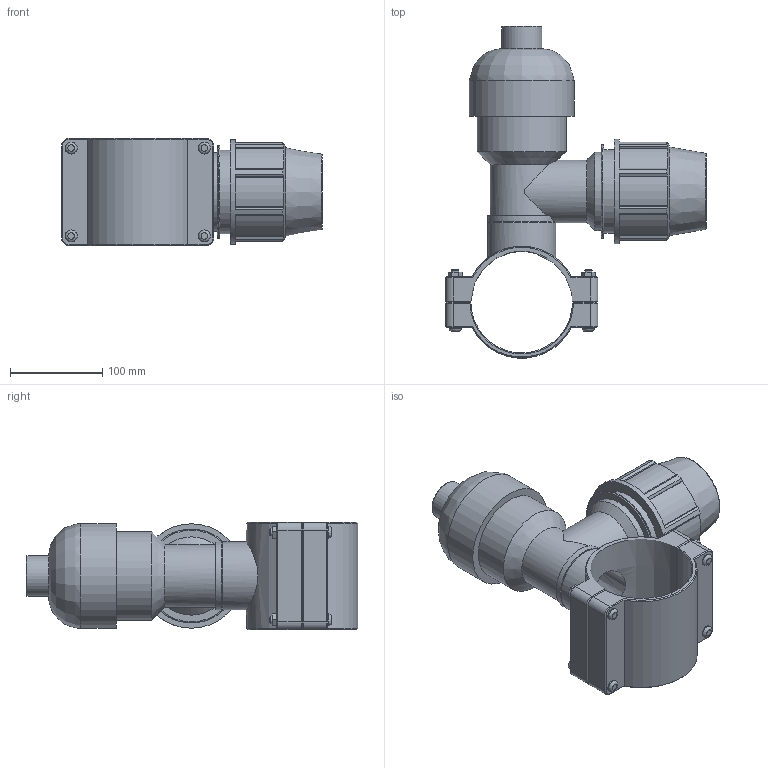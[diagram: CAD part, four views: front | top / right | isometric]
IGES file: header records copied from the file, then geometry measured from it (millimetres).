
Global section: file name: 186800110063.ipt; native system: Autodesk Inventor 2015; preprocessor: unknown; author: KIM; date: 20170618.094026; units: millimetre
Bounding box: 282.5 x 359.28 x 116 mm (x, y, z)
Volume: 2223906.7 mm3; surface area: 315645.8 mm2
Topology: 1 solids, 1 shells, 227 faces, 573 edges, 369 vertices
Faces by surface type: plane 136, cylinder 44, cone 29, revolution 18
Full cylindrical faces by diameter (mm): 8 x4, 13 x8, 43.598 x1, 67.8 x1, 73.653 x1, 84.75 x1, 90.4 x1, 96.315 x1, 101.7 x1, 113 x1, 113.312 x1
